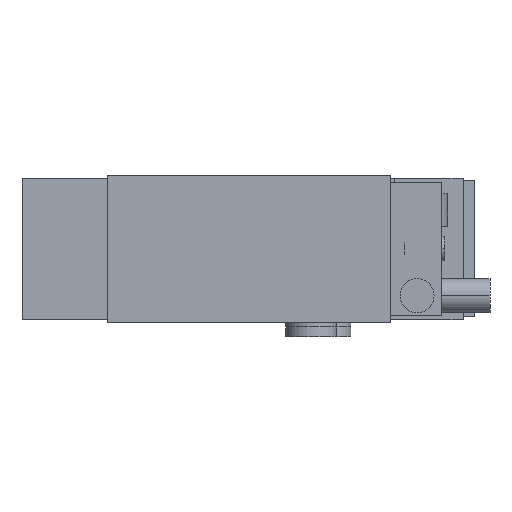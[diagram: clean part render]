
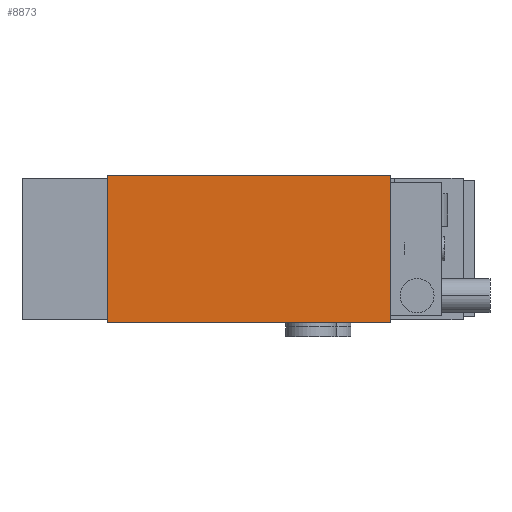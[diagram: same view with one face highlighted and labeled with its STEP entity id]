
A CAD part, front view. The second image highlights one B-rep face of the part: STEP entity #8873.
In plain terms, the highlighted planar face has unit normal (0, -1, 0).
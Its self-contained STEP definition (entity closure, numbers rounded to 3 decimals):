
#2368 = ORIENTED_EDGE ( 'NONE', *, *, #40489, .T. ) ;
#2930 = DIRECTION ( 'NONE',  ( 0., 0., -1. ) ) ;
#5507 = DIRECTION ( 'NONE',  ( 0., 0., 1. ) ) ;
#6562 = AXIS2_PLACEMENT_3D ( 'NONE', #39739, #15957, #2930 ) ;
#8023 = LINE ( 'NONE', #15066, #20360 ) ;
#8873 = ADVANCED_FACE ( 'NONE', ( #31818 ), #15502, .T. ) ;
#10331 = CARTESIAN_POINT ( 'NONE',  ( -25., -188.7, 26. ) ) ;
#11572 = DIRECTION ( 'NONE',  ( -1., 0., 0. ) ) ;
#11639 = ORIENTED_EDGE ( 'NONE', *, *, #17772, .T. ) ;
#12295 = DIRECTION ( 'NONE',  ( 1., 0., 0. ) ) ;
#14331 = CARTESIAN_POINT ( 'NONE',  ( 75., -188.7, 26. ) ) ;
#14934 = CARTESIAN_POINT ( 'NONE',  ( -25., -188.7, -26. ) ) ;
#15066 = CARTESIAN_POINT ( 'NONE',  ( -25., -188.7, 26. ) ) ;
#15410 = VERTEX_POINT ( 'NONE', #28305 ) ;
#15502 = PLANE ( 'NONE',  #6562 ) ;
#15957 = DIRECTION ( 'NONE',  ( 0., -1., 0. ) ) ;
#16142 = VERTEX_POINT ( 'NONE', #10331 ) ;
#17282 = VECTOR ( 'NONE', #5507, 1000. ) ;
#17772 = EDGE_CURVE ( 'NONE', #16142, #15410, #19725, .T. ) ;
#19179 = LINE ( 'NONE', #14934, #26403 ) ;
#19725 = LINE ( 'NONE', #40400, #42471 ) ;
#20360 = VECTOR ( 'NONE', #11572, 1000. ) ;
#22899 = ORIENTED_EDGE ( 'NONE', *, *, #33077, .T. ) ;
#25759 = ORIENTED_EDGE ( 'NONE', *, *, #37154, .T. ) ;
#26403 = VECTOR ( 'NONE', #12295, 1000. ) ;
#28305 = CARTESIAN_POINT ( 'NONE',  ( -25., -188.7, -26. ) ) ;
#30169 = EDGE_LOOP ( 'NONE', ( #11639, #2368, #22899, #25759 ) ) ;
#31818 = FACE_OUTER_BOUND ( 'NONE', #30169, .T. ) ;
#32608 = LINE ( 'NONE', #32843, #17282 ) ;
#32843 = CARTESIAN_POINT ( 'NONE',  ( 75., -188.7, 26. ) ) ;
#33077 = EDGE_CURVE ( 'NONE', #36090, #38212, #32608, .T. ) ;
#36090 = VERTEX_POINT ( 'NONE', #41393 ) ;
#37154 = EDGE_CURVE ( 'NONE', #38212, #16142, #8023, .T. ) ;
#38212 = VERTEX_POINT ( 'NONE', #14331 ) ;
#39739 = CARTESIAN_POINT ( 'NONE',  ( 0., -188.7, 0. ) ) ;
#40400 = CARTESIAN_POINT ( 'NONE',  ( -25., -188.7, 26. ) ) ;
#40489 = EDGE_CURVE ( 'NONE', #15410, #36090, #19179, .T. ) ;
#41393 = CARTESIAN_POINT ( 'NONE',  ( 75., -188.7, -26. ) ) ;
#41419 = DIRECTION ( 'NONE',  ( 0., 0., -1. ) ) ;
#42471 = VECTOR ( 'NONE', #41419, 1000. ) ;
